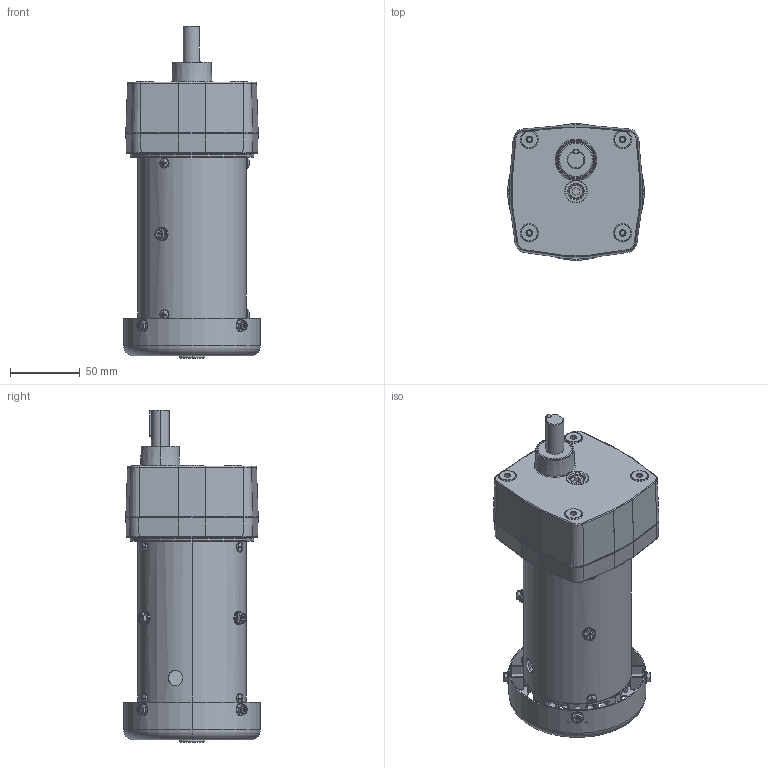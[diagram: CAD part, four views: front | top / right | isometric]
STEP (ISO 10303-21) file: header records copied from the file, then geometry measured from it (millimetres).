
FILE_DESCRIPTION (( 'STEP AP203' ), '1' );
FILE_NAME ('M1030607-M1125132_RevA.STEP', '2018-02-19T18:30:24', ( 'RBC' ), ( 'RBC' ), 'SwSTEP 2.0', 'SolidWorks 2015', '' );
FILE_SCHEMA (( 'CONFIG_CONTROL_DESIGN' ));
Length unit declared in the file: inch
Products named in the file (1): M1030607-M1125132_RevA
Bounding box: 98.6 x 98.6 x 238.83 mm (x, y, z)
Volume: 356085.9 mm3; surface area: 201118.4 mm2
Topology: 31 solids, 31 shells, 2996 faces, 7053 edges, 4185 vertices
Faces by surface type: plane 718, cylinder 670, bspline 631, torus 460, cone 384, sphere 133
Entity records: 110696 total; most frequent: CARTESIAN_POINT 45508, ORIENTED_EDGE 14006, DIRECTION 13300, EDGE_CURVE 7003, AXIS2_PLACEMENT_3D 5602, VERTEX_POINT 4185, CIRCLE 3236, EDGE_LOOP 3230
